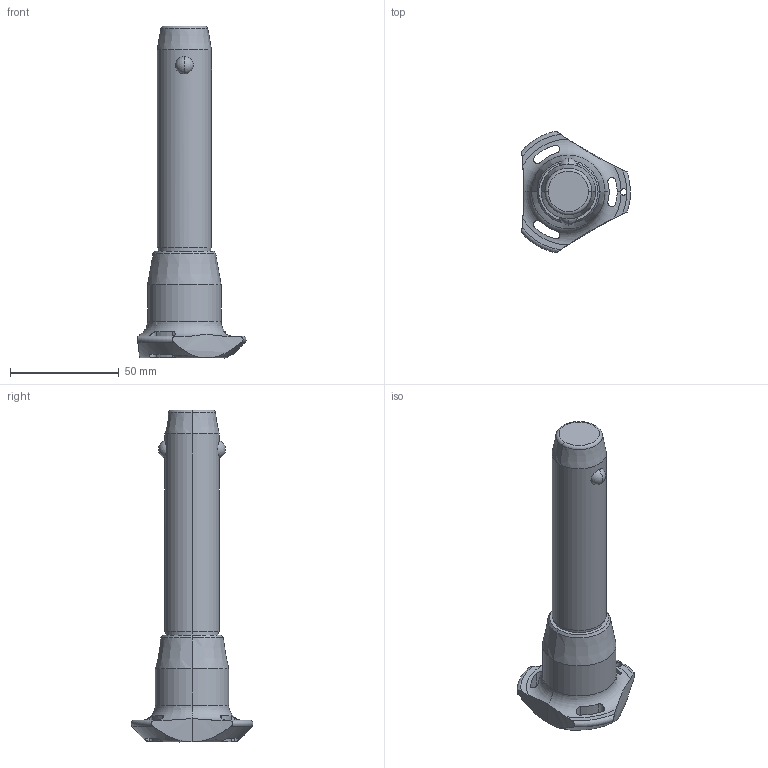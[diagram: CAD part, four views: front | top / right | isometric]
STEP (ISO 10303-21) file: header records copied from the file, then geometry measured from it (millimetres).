
FILE_DESCRIPTION (( 'STEP AP203' ), '1' );
FILE_NAME ('QR1724.M25-080-S.step', '2025-11-12T13:11:31', ( '' ), ( '' ), 'SwSTEP 2.0', 'SolidWorks 2019', '' );
FILE_SCHEMA (( 'CONFIG_CONTROL_DESIGN' ));
Length unit declared in the file: millimetre
Products named in the file (1): QR1724.M25-080-S
Bounding box: 50.04 x 56.02 x 152.7 mm (x, y, z)
Volume: 97723.5 mm3; surface area: 17732.4 mm2
Topology: 1 solids, 1 shells, 65 faces, 176 edges, 111 vertices
Faces by surface type: cylinder 30, cone 14, torus 11, sphere 6, plane 4
Entity records: 2858 total; most frequent: CARTESIAN_POINT 1179, ORIENTED_EDGE 352, DIRECTION 329, EDGE_CURVE 176, AXIS2_PLACEMENT_3D 147, VERTEX_POINT 111, CIRCLE 81, EDGE_LOOP 71
